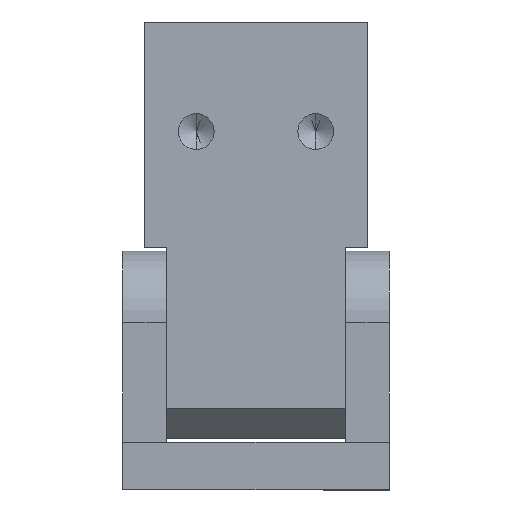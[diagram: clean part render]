
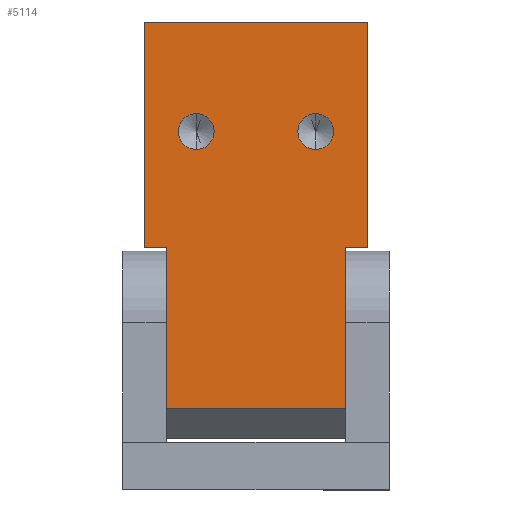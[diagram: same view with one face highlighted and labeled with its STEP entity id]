
A CAD part, left-side view. The second image highlights one B-rep face of the part: STEP entity #5114.
In plain terms, the highlighted planar face has unit normal (-1, 0, 0).
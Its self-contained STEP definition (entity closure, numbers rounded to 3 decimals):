
#267 = EDGE_CURVE ( 'NONE', #782, #774, #1394, .T. ) ;
#271 = ORIENTED_EDGE ( 'NONE', *, *, #791, .F. ) ;
#272 = ORIENTED_EDGE ( 'NONE', *, *, #3043, .T. ) ;
#273 = EDGE_LOOP ( 'NONE', ( #2988, #272, #285, #3092, #299, #298, #287, #336 ) ) ;
#285 = ORIENTED_EDGE ( 'NONE', *, *, #310, .T. ) ;
#287 = ORIENTED_EDGE ( 'NONE', *, *, #2262, .T. ) ;
#288 = VERTEX_POINT ( 'NONE', #1426 ) ;
#289 = EDGE_CURVE ( 'NONE', #3060, #633, #1414, .T. ) ;
#292 = EDGE_CURVE ( 'NONE', #2084, #3060, #1418, .T. ) ;
#294 = EDGE_CURVE ( 'NONE', #805, #789, #1411, .T. ) ;
#296 = VERTEX_POINT ( 'NONE', #1405 ) ;
#298 = ORIENTED_EDGE ( 'NONE', *, *, #292, .F. ) ;
#299 = ORIENTED_EDGE ( 'NONE', *, *, #289, .F. ) ;
#310 = EDGE_CURVE ( 'NONE', #296, #347, #1465, .T. ) ;
#336 = ORIENTED_EDGE ( 'NONE', *, *, #427, .T. ) ;
#347 = VERTEX_POINT ( 'NONE', #1533 ) ;
#397 = EDGE_CURVE ( 'NONE', #347, #633, #1590, .T. ) ;
#418 = VERTEX_POINT ( 'NONE', #1627 ) ;
#419 = VERTEX_POINT ( 'NONE', #1625 ) ;
#427 = EDGE_CURVE ( 'NONE', #418, #419, #1606, .T. ) ;
#633 = VERTEX_POINT ( 'NONE', #2077 ) ;
#773 = EDGE_CURVE ( 'NONE', #774, #782, #2273, .T. ) ;
#774 = VERTEX_POINT ( 'NONE', #2258 ) ;
#782 = VERTEX_POINT ( 'NONE', #2259 ) ;
#789 = VERTEX_POINT ( 'NONE', #2308 ) ;
#791 = EDGE_CURVE ( 'NONE', #789, #805, #2303, .T. ) ;
#805 = VERTEX_POINT ( 'NONE', #2334 ) ;
#1390 = CARTESIAN_POINT ( 'NONE',  ( 0., -13., 29. ) ) ;
#1394 = CIRCLE ( 'NONE', #1429, 4.5 ) ;
#1405 = CARTESIAN_POINT ( 'NONE',  ( 0., -50.5, -40.5 ) ) ;
#1407 = VECTOR ( 'NONE', #1430, 1000. ) ;
#1409 = DIRECTION ( 'NONE',  ( 0., 0., -1. ) ) ;
#1410 = VECTOR ( 'NONE', #1409, 1000. ) ;
#1411 = CIRCLE ( 'NONE', #1412, 4.5 ) ;
#1412 = AXIS2_PLACEMENT_3D ( 'NONE', #1468, #1467, #1466 ) ;
#1413 = CARTESIAN_POINT ( 'NONE',  ( 0., -56., 56.5 ) ) ;
#1414 = LINE ( 'NONE', #1413, #1410 ) ;
#1418 = LINE ( 'NONE', #1431, #1407 ) ;
#1426 = CARTESIAN_POINT ( 'NONE',  ( 0., -5.5, -40.5 ) ) ;
#1427 = DIRECTION ( 'NONE',  ( 0., 0., 1. ) ) ;
#1428 = DIRECTION ( 'NONE',  ( -1., 0., 0. ) ) ;
#1429 = AXIS2_PLACEMENT_3D ( 'NONE', #1390, #1428, #1427 ) ;
#1430 = DIRECTION ( 'NONE',  ( 0., -1., 0. ) ) ;
#1431 = CARTESIAN_POINT ( 'NONE',  ( 0., -104.097, 56.5 ) ) ;
#1454 = DIRECTION ( 'NONE',  ( 0., 0., 1. ) ) ;
#1455 = VECTOR ( 'NONE', #1454, 1000. ) ;
#1456 = CARTESIAN_POINT ( 'NONE',  ( 0., -50.5, -48. ) ) ;
#1465 = LINE ( 'NONE', #1456, #1455 ) ;
#1466 = DIRECTION ( 'NONE',  ( 0., 0., 1. ) ) ;
#1467 = DIRECTION ( 'NONE',  ( -1., 0., 0. ) ) ;
#1468 = CARTESIAN_POINT ( 'NONE',  ( 0., -43., 29. ) ) ;
#1533 = CARTESIAN_POINT ( 'NONE',  ( 0., -50.5, 0. ) ) ;
#1555 = CARTESIAN_POINT ( 'NONE',  ( 0., -104.097, 0. ) ) ;
#1581 = DIRECTION ( 'NONE',  ( 0., -1., 0. ) ) ;
#1590 = LINE ( 'NONE', #1555, #1599 ) ;
#1599 = VECTOR ( 'NONE', #1581, 1000. ) ;
#1604 = VECTOR ( 'NONE', #1671, 1000. ) ;
#1605 = CARTESIAN_POINT ( 'NONE',  ( 0., -104.097, 0. ) ) ;
#1606 = LINE ( 'NONE', #1605, #1604 ) ;
#1625 = CARTESIAN_POINT ( 'NONE',  ( 0., -5.5, 0. ) ) ;
#1627 = CARTESIAN_POINT ( 'NONE',  ( 0., 0., 0. ) ) ;
#1671 = DIRECTION ( 'NONE',  ( 0., -1., 0. ) ) ;
#2077 = CARTESIAN_POINT ( 'NONE',  ( 0., -56., 0. ) ) ;
#2084 = VERTEX_POINT ( 'NONE', #2816 ) ;
#2258 = CARTESIAN_POINT ( 'NONE',  ( 0., -13., 24.5 ) ) ;
#2259 = CARTESIAN_POINT ( 'NONE',  ( 0., -13., 33.5 ) ) ;
#2262 = EDGE_CURVE ( 'NONE', #2084, #418, #2855, .T. ) ;
#2270 = CARTESIAN_POINT ( 'NONE',  ( 0., -13., 29. ) ) ;
#2273 = CIRCLE ( 'NONE', #2321, 4.5 ) ;
#2299 = DIRECTION ( 'NONE',  ( 0., 0., 1. ) ) ;
#2300 = DIRECTION ( 'NONE',  ( -1., 0., 0. ) ) ;
#2301 = CARTESIAN_POINT ( 'NONE',  ( 0., -43., 29. ) ) ;
#2302 = AXIS2_PLACEMENT_3D ( 'NONE', #2301, #2300, #2299 ) ;
#2303 = CIRCLE ( 'NONE', #2302, 4.5 ) ;
#2308 = CARTESIAN_POINT ( 'NONE',  ( 0., -43., 24.5 ) ) ;
#2319 = DIRECTION ( 'NONE',  ( 0., 0., 1. ) ) ;
#2320 = DIRECTION ( 'NONE',  ( -1., 0., 0. ) ) ;
#2321 = AXIS2_PLACEMENT_3D ( 'NONE', #2270, #2320, #2319 ) ;
#2334 = CARTESIAN_POINT ( 'NONE',  ( 0., -43., 33.5 ) ) ;
#2583 = ORIENTED_EDGE ( 'NONE', *, *, #294, .F. ) ;
#2816 = CARTESIAN_POINT ( 'NONE',  ( 0., 0., 56.5 ) ) ;
#2846 = DIRECTION ( 'NONE',  ( 0., 0., -1. ) ) ;
#2847 = VECTOR ( 'NONE', #2846, 1000. ) ;
#2854 = CARTESIAN_POINT ( 'NONE',  ( 0., 0., 56.5 ) ) ;
#2855 = LINE ( 'NONE', #2854, #2847 ) ;
#2867 = DIRECTION ( 'NONE',  ( 0., 0., 1. ) ) ;
#2868 = VECTOR ( 'NONE', #2867, 1000. ) ;
#2869 = LINE ( 'NONE', #2871, #2875 ) ;
#2871 = CARTESIAN_POINT ( 'NONE',  ( 0., -50.5, -40.5 ) ) ;
#2874 = DIRECTION ( 'NONE',  ( 0., -1., 0. ) ) ;
#2875 = VECTOR ( 'NONE', #2874, 1000. ) ;
#2883 = CARTESIAN_POINT ( 'NONE',  ( 0., -5.5, -48. ) ) ;
#2884 = LINE ( 'NONE', #2883, #2868 ) ;
#2930 = CARTESIAN_POINT ( 'NONE',  ( 0., -56., 56.5 ) ) ;
#2960 = EDGE_CURVE ( 'NONE', #288, #419, #2884, .T. ) ;
#2988 = ORIENTED_EDGE ( 'NONE', *, *, #2960, .F. ) ;
#3043 = EDGE_CURVE ( 'NONE', #288, #296, #2869, .T. ) ;
#3060 = VERTEX_POINT ( 'NONE', #2930 ) ;
#3062 = EDGE_LOOP ( 'NONE', ( #3098, #3077 ) ) ;
#3077 = ORIENTED_EDGE ( 'NONE', *, *, #773, .F. ) ;
#3092 = ORIENTED_EDGE ( 'NONE', *, *, #397, .T. ) ;
#3098 = ORIENTED_EDGE ( 'NONE', *, *, #267, .F. ) ;
#3104 = DIRECTION ( 'NONE',  ( 1., 0., 0. ) ) ;
#3105 = CARTESIAN_POINT ( 'NONE',  ( 0., -104.097, 56.5 ) ) ;
#3150 = FACE_OUTER_BOUND ( 'NONE', #273, .T. ) ;
#3152 = FACE_BOUND ( 'NONE', #3062, .T. ) ;
#3156 = PLANE ( 'NONE',  #3166 ) ;
#3158 = DIRECTION ( 'NONE',  ( 0., 1., 0. ) ) ;
#3166 = AXIS2_PLACEMENT_3D ( 'NONE', #3105, #3104, #3158 ) ;
#3171 = FACE_BOUND ( 'NONE', #5110, .T. ) ;
#5110 = EDGE_LOOP ( 'NONE', ( #2583, #271 ) ) ;
#5114 = ADVANCED_FACE ( 'NONE', ( #3171, #3152, #3150 ), #3156, .F. ) ;
